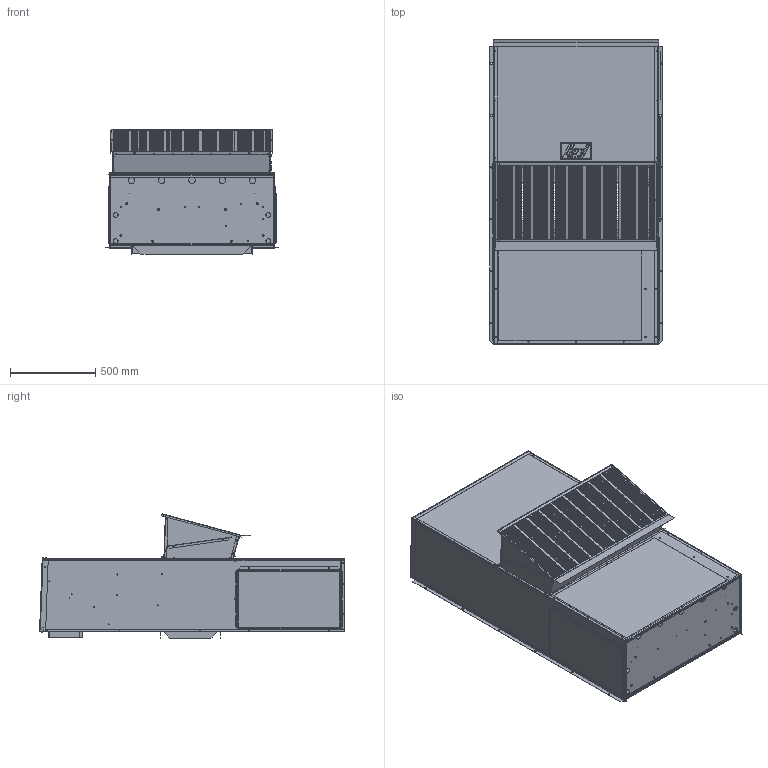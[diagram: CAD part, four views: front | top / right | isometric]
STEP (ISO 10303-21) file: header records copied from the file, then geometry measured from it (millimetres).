
FILE_DESCRIPTION (( 'STEP AP203' ), '1' );
FILE_NAME ('STEP_400_11.STEP', '2016-06-16T19:34:30', ( '' ), ( '' ), 'SwSTEP 2.0', 'SolidWorks 2016', '' );
FILE_SCHEMA (( 'CONFIG_CONTROL_DESIGN' ));
Products named in the file (1): STEP_400_11
Bounding box: 1015.56 x 1792.28 x 730 mm (x, y, z)
Volume: 7057881.3 mm3; surface area: 14785201.8 mm2
Topology: 62 solids, 62 shells, 5164 faces, 14123 edges, 9157 vertices
Faces by surface type: plane 2960, cylinder 1349, bspline 795, cone 60
Entity records: 189768 total; most frequent: CARTESIAN_POINT 58352, ORIENTED_EDGE 28126, DIRECTION 25475, EDGE_CURVE 14063, LINE 9555, VECTOR 9555, VERTEX_POINT 9157, AXIS2_PLACEMENT_3D 7960
